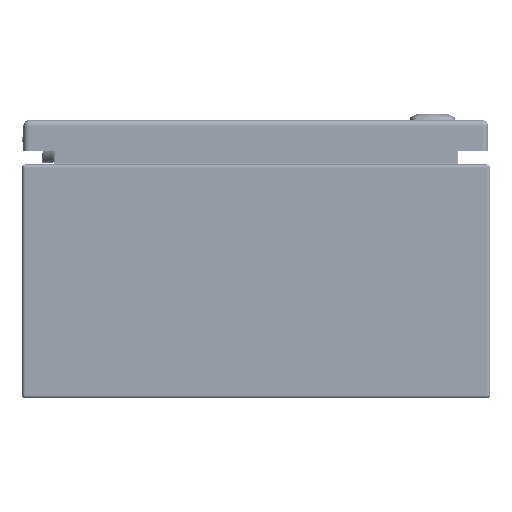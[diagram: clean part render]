
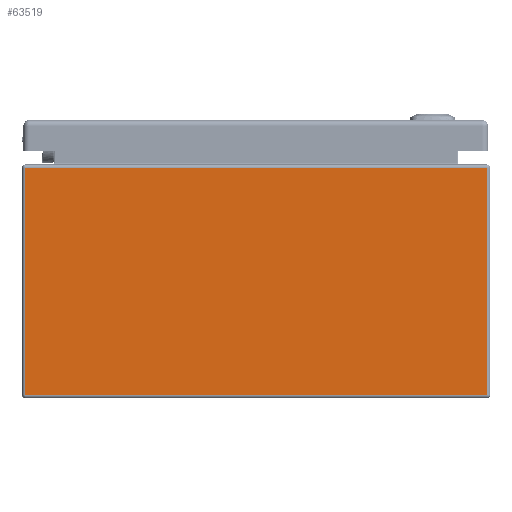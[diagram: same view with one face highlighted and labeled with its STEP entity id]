
A CAD part, front view. The second image highlights one B-rep face of the part: STEP entity #63519.
In plain terms, the highlighted planar face has unit normal (0, -1, 0).
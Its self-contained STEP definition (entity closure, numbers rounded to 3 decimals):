
#6318=LINE('',#88828,#10175);
#6325=LINE('',#88843,#10182);
#6327=LINE('',#88850,#10184);
#6329=LINE('',#88859,#10186);
#10175=VECTOR('',#73948,0.394);
#10182=VECTOR('',#73961,0.394);
#10184=VECTOR('',#73969,0.394);
#10186=VECTOR('',#73981,0.394);
#15039=FACE_OUTER_BOUND('',#18953,.T.);
#18953=EDGE_LOOP('',(#42270,#42271,#42272,#42273));
#25454=VERTEX_POINT('',#88798);
#25461=VERTEX_POINT('',#88824);
#25466=VERTEX_POINT('',#88842);
#25468=VERTEX_POINT('',#88848);
#31955=EDGE_CURVE('',#25454,#25461,#6318,.T.);
#31962=EDGE_CURVE('',#25461,#25466,#6325,.T.);
#31966=EDGE_CURVE('',#25468,#25454,#6327,.T.);
#31971=EDGE_CURVE('',#25468,#25466,#6329,.T.);
#42270=ORIENTED_EDGE('',*,*,#31955,.F.);
#42271=ORIENTED_EDGE('',*,*,#31966,.F.);
#42272=ORIENTED_EDGE('',*,*,#31971,.T.);
#42273=ORIENTED_EDGE('',*,*,#31962,.F.);
#62173=PLANE('',#68313);
#63519=ADVANCED_FACE('',(#15039),#62173,.F.);
#68313=AXIS2_PLACEMENT_3D('',#88870,#73995,#73996);
#73948=DIRECTION('',(1.,0.,0.));
#73961=DIRECTION('',(0.,0.,-1.));
#73969=DIRECTION('',(0.,0.,1.));
#73981=DIRECTION('',(1.,0.,0.));
#73995=DIRECTION('center_axis',(0.,1.,0.));
#73996=DIRECTION('ref_axis',(0.,0.,1.));
#88798=CARTESIAN_POINT('',(-5.916,-10.,5.916));
#88824=CARTESIAN_POINT('',(5.916,-10.,5.916));
#88828=CARTESIAN_POINT('',(2.979,-10.,5.916));
#88842=CARTESIAN_POINT('',(5.916,-10.,0.084));
#88843=CARTESIAN_POINT('',(5.916,-10.,3.));
#88848=CARTESIAN_POINT('',(-5.916,-10.,0.084));
#88850=CARTESIAN_POINT('',(-5.916,-10.,3.));
#88859=CARTESIAN_POINT('',(-2.958,-10.,0.084));
#88870=CARTESIAN_POINT('Origin',(0.,-10.,3.));
